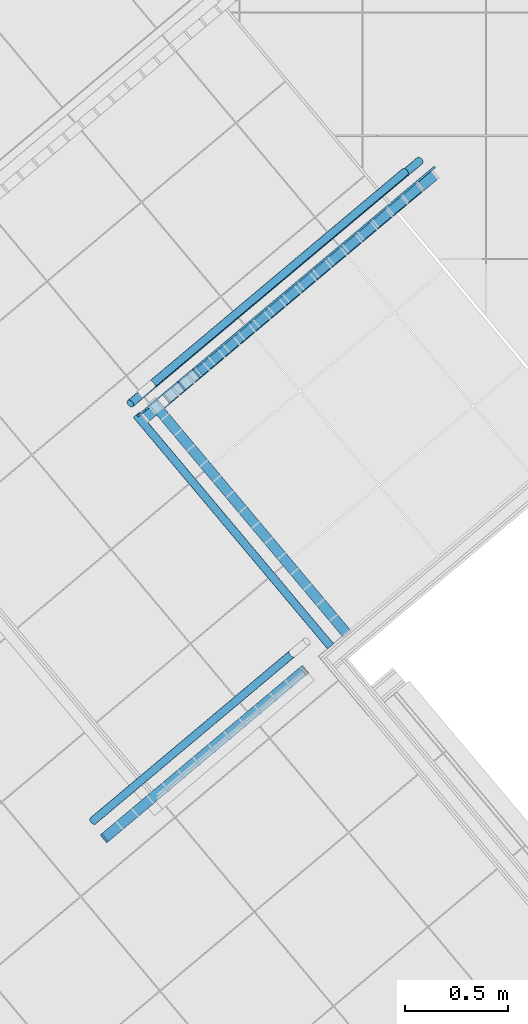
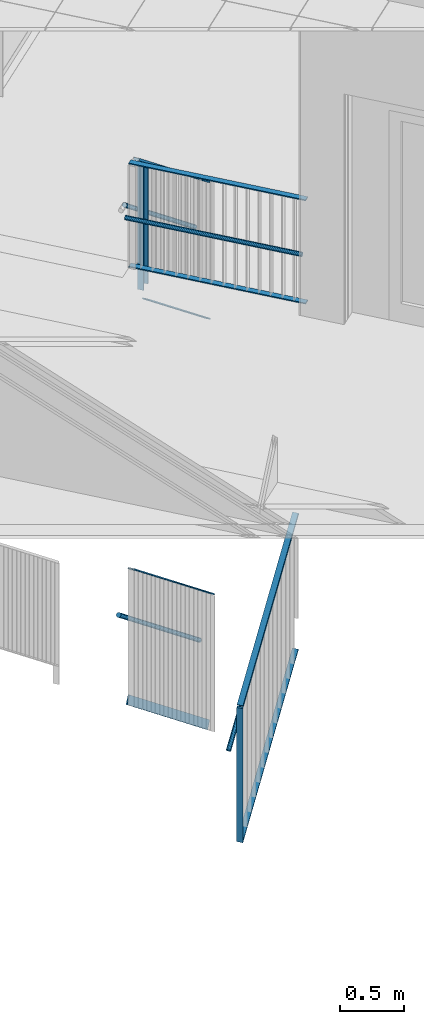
# One storey, part 32 of 321: 15 members, 4 elements without a shape of their own.
"""IFC2X3 building model written with IfcOpenShell, lengths in millimetres."""

from ifc_helpers import new_model, entity, si_unit, converted_unit, derived_unit, money_unit, direction, frame, origin_with_axes, place, context, subcontext, project, spatial, faceted_brep, material, type_object, element, aggregate, save


model = new_model("IFC2X3")

# Units and contexts
model_context = context("Model", 3, precision=0.01, world=origin_with_axes(), true_north=direction((0.0, 1.0)))
plan_context = context("Plan", 3, precision=0.01, world=origin_with_axes(), true_north=direction((0.0, 1.0)))
body_context = subcontext(model_context, "Body", "Model", "MODEL_VIEW")
ifc_project = project(units=[si_unit("LENGTHUNIT", "METRE", prefix="MILLI"), si_unit("AREAUNIT", "SQUARE_METRE"), si_unit("VOLUMEUNIT", "CUBIC_METRE"), converted_unit("PLANEANGLEUNIT", "DEGREE", entity("IfcPlaneAngleMeasure", 0.0174532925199), si_unit("PLANEANGLEUNIT", "RADIAN"), dimensions=[0, 0, 0, 0, 0, 0, 0]), money_unit("EUR"), converted_unit("TIMEUNIT", "Year", entity("IfcTimeMeasure", 31556926.0), si_unit("TIMEUNIT", "SECOND"), dimensions=[0, 0, 1, 0, 0, 0, 0]), si_unit("MASSUNIT", "GRAM", prefix="KILO"), si_unit("THERMODYNAMICTEMPERATUREUNIT", "DEGREE_CELSIUS"), si_unit("LUMINOUSINTENSITYUNIT", "LUMEN"), si_unit("ENERGYUNIT", "JOULE", prefix="MEGA"), derived_unit("THERMALCONDUCTANCEUNIT", [(si_unit("POWERUNIT", "WATT"), 1), (si_unit("LENGTHUNIT", "METRE"), -1), (si_unit("THERMODYNAMICTEMPERATUREUNIT", "KELVIN"), -1)]), derived_unit("SPECIFICHEATCAPACITYUNIT", [(si_unit("ENERGYUNIT", "JOULE"), 1), (si_unit("MASSUNIT", "GRAM", prefix="KILO"), -1), (si_unit("THERMODYNAMICTEMPERATUREUNIT", "KELVIN"), -1)]), derived_unit("MASSDENSITYUNIT", [(si_unit("MASSUNIT", "GRAM", prefix="KILO"), 1), (si_unit("VOLUMEUNIT", "CUBIC_METRE"), -1)])], contexts=[model_context, plan_context])

# Site, building, storey
site_placement = place(None, origin_with_axes())
site = spatial("IfcSite", under=ifc_project, at=site_placement, Name="Fortuinstraat Woensdrecht", CompositionType="ELEMENT")
building_placement = place(site_placement, origin_with_axes())
building = spatial("IfcBuilding", under=site, at=building_placement, Name="IKC Fortuna", CompositionType="ELEMENT")
storey_placement = place(building_placement, frame((0.0, 0.0, 4000.0), z_axis=(0.0, 0.0, 1.0), x_axis=(1.0, 0.0, 0.0)))
storey = spatial("IfcBuildingStorey", under=building, at=storey_placement, Name="01 eerste verdieping", CompositionType="ELEMENT", Elevation=4000.0)

# Railing, members
railing_type = type_object("IfcRailingType", Name="Railing Type", PredefinedType="NOTDEFINED")
railing_1_placement = place(storey_placement, frame((21162.521342, 3493.11146248, 1450.0), z_axis=(0.0, 0.0, 1.0), x_axis=(1.0, 0.0, 0.0)))
railing_1 = element("IfcRailing", 1, at=railing_1_placement, inside=storey, type_object=railing_type, Name="34_Reling_Trapleuning", PredefinedType="NOTDEFINED")
ifc_material_1 = material(Name="Metaal - RVS")
member_type_1 = type_object("IfcMemberType", Name="IfcMember", PredefinedType="USERDEFINED")
member_1_placement = place(railing_1_placement, frame((-1120.82043054, -2175.1546131, 505.27864045), z_axis=(0.0, 0.0, 1.0), x_axis=(1.0, 0.0, 0.0)))
member_1 = element("IfcMember", 2, at=member_1_placement, type_object=member_type_1, material=ifc_material_1, Name="_Reling - regel_Handregel-x", context=body_context, shape_type="Brep", body=[
    faceted_brep([(-457.699758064, 576.579902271, 24.72135955), (-457.932516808, 576.384594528, 28.1943231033), (488.108779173, -551.063708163, 28.1943231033), (488.341537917, -550.868400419, 24.72135955), (-457.932516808, 576.384594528, 21.2483959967), (-458.623720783, 575.804605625, 17.8809566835), (-459.752368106, 574.857558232, 14.72135955), (-461.284165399, 573.572227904, 11.8656073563), (-463.172569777, 571.987668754, 9.40047068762), (-465.360203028, 570.152026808, 7.40085147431), (-467.780595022, 568.12107712, 5.92750713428), (-470.360203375, 565.956529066, 5.02520448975), (-473.020647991, 563.724151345, 4.72135955), (-475.681092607, 561.491773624, 5.02520448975), (-478.260700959, 559.327225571, 5.92750713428), (-480.681092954, 557.296275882, 7.40085147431), (-482.868726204, 555.460633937, 9.40047068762), (-484.757130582, 553.876074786, 11.8656073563), (-486.288927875, 552.590744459, 14.72135955), (-487.417575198, 551.643697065, 17.8809566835), (-488.108779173, 551.063708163, 21.2483959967), (-488.341537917, 550.868400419, 24.72135955), (-488.108779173, 551.063708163, 28.1943231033), (-487.417575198, 551.643697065, 31.5617624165), (-486.288927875, 552.590744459, 34.72135955), (-484.757130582, 553.876074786, 37.5771117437), (-482.868726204, 555.460633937, 40.0422484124), (-480.681092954, 557.296275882, 42.0418676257), (-478.260700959, 559.327225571, 43.5152119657), (-475.681092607, 561.491773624, 44.4175146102), (-473.020647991, 563.724151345, 44.72135955), (-470.360203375, 565.956529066, 44.4175146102), (-467.780595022, 568.12107712, 43.5152119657), (-465.360203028, 570.152026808, 42.0418676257), (-463.172569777, 571.987668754, 40.0422484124), (-461.284165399, 573.572227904, 37.5771117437), (-459.752368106, 574.857558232, 34.72135955), (-458.623720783, 575.804605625, 31.5617624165), (487.417575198, -551.643697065, 31.5617624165), (486.288927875, -552.590744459, 34.72135955), (484.757130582, -553.876074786, 37.5771117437), (482.868726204, -555.460633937, 40.0422484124), (480.681092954, -557.296275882, 42.0418676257), (478.260700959, -559.327225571, 43.5152119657), (475.681092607, -561.491773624, 44.4175146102), (473.020647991, -563.724151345, 44.72135955), (470.360203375, -565.956529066, 44.4175146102), (467.780595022, -568.12107712, 43.5152119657), (465.360203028, -570.152026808, 42.0418676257), (463.172569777, -571.987668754, 40.0422484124), (461.284165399, -573.572227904, 37.5771117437), (459.752368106, -574.857558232, 34.72135955), (458.623720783, -575.804605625, 31.5617624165), (457.932516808, -576.384594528, 28.1943231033), (457.699758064, -576.579902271, 24.72135955), (457.932516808, -576.384594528, 21.2483959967), (458.623720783, -575.804605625, 17.8809566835), (459.752368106, -574.857558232, 14.72135955), (461.284165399, -573.572227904, 11.8656073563), (463.172569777, -571.987668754, 9.40047068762), (465.360203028, -570.152026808, 7.40085147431), (467.780595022, -568.12107712, 5.92750713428), (470.360203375, -565.956529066, 5.02520448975), (473.020647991, -563.724151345, 4.72135955), (475.681092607, -561.491773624, 5.02520448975), (478.260700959, -559.327225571, 5.92750713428), (480.681092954, -557.296275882, 7.40085147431), (482.868726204, -555.460633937, 9.40047068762), (484.757130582, -553.876074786, 11.8656073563), (486.288927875, -552.590744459, 14.72135955), (487.417575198, -551.643697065, 17.8809566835), (488.108779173, -551.063708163, 21.2483959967)], [[[0, 1, 2, 3]], [[0, 4, 5, 6, 7, 8, 9, 10, 11, 12, 13, 14, 15, 16, 17, 18, 19, 20, 21, 22, 23, 24, 25, 26, 27, 28, 29, 30, 31, 32, 33, 34, 35, 36, 37, 1]], [[1, 37, 38, 2]], [[3, 2, 38, 39, 40, 41, 42, 43, 44, 45, 46, 47, 48, 49, 50, 51, 52, 53, 54, 55, 56, 57, 58, 59, 60, 61, 62, 63, 64, 65, 66, 67, 68, 69, 70, 71]], [[4, 0, 3, 71]], [[5, 4, 71, 70]], [[6, 5, 70, 69]], [[7, 6, 69, 68]], [[8, 7, 68, 67]], [[9, 8, 67, 66]], [[10, 9, 66, 65]], [[11, 10, 65, 64]], [[12, 11, 64, 63]], [[13, 12, 63, 62]], [[14, 13, 62, 61]], [[15, 14, 61, 60]], [[16, 15, 60, 59]], [[17, 16, 59, 58]], [[18, 17, 58, 57]], [[19, 18, 57, 56]], [[20, 19, 56, 55]], [[21, 20, 55, 54]], [[22, 21, 54, 53]], [[23, 22, 53, 52]], [[24, 23, 52, 51]], [[25, 24, 51, 50]], [[26, 25, 50, 49]], [[27, 26, 49, 48]], [[28, 27, 48, 47]], [[29, 28, 47, 46]], [[30, 29, 46, 45]], [[31, 30, 45, 44]], [[32, 31, 44, 43]], [[33, 32, 43, 42]], [[34, 33, 42, 41]], [[35, 34, 41, 40]], [[36, 35, 40, 39]], [[37, 36, 39, 38]]]),
])
member_2_placement = place(railing_1_placement, frame((-1044.21598091, -2110.87585847, 973.074175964), z_axis=(0.0, 0.0, 1.0), x_axis=(1.0, 0.0, 0.0)))
member_2 = element("IfcMember", 3, at=member_2_placement, type_object=member_type_1, material=ifc_material_1, Name="_Reling - regel_", context=body_context, shape_type="Brep", body=[
    faceted_brep([(-492.171760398, 547.654462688, 26.9258240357), (-492.171760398, 547.654462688, 16.9258240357), (453.869535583, -579.793840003, 16.9258240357), (453.869535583, -579.793840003, 26.9258240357), (-453.869535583, 579.793840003, 26.9258240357), (-453.869535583, 579.793840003, 16.9258240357), (492.171760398, -547.654462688, 16.9258240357), (492.171760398, -547.654462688, 26.9258240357)], [[[0, 1, 2, 3]], [[0, 4, 5, 1]], [[1, 5, 6, 2]], [[3, 2, 6, 7]], [[4, 0, 3, 7]], [[5, 4, 7, 6]]]),
])
member_3_placement = place(railing_1_placement, frame((-1044.21598091, -2110.87585847, -15.495097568), z_axis=(0.0, 0.0, 1.0), x_axis=(1.0, 0.0, 0.0)))
member_3 = element("IfcMember", 4, at=member_3_placement, type_object=member_type_1, material=ifc_material_1, Name="_Reling - regel_Regel-x", context=body_context, shape_type="Brep", body=[
    faceted_brep([(-492.171760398, 547.654462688, 30.495097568), (-492.171760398, 547.654462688, 20.495097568), (453.869535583, -579.793840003, 20.495097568), (453.869535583, -579.793840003, 30.495097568), (-453.869535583, 579.793840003, 30.495097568), (-453.869535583, 579.793840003, 20.495097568), (492.171760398, -547.654462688, 20.495097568), (492.171760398, -547.654462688, 30.495097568)], [[[0, 1, 2, 3]], [[0, 4, 5, 1]], [[1, 5, 6, 2]], [[3, 2, 6, 7]], [[4, 0, 3, 7]], [[5, 4, 7, 6]]]),
])
aggregate(railing_1, [member_1, member_2, member_3])

railing_2_placement = place(storey_placement, frame((21000.2167355, 3077.07880334, -3818.75), z_axis=(0.0, 0.0, 1.0), x_axis=(1.0, 0.0, 0.0)))
railing_2 = element("IfcRailing", 5, at=railing_2_placement, inside=storey, type_object=railing_type, Name="34_Reling_Trapleuning", PredefinedType="NOTDEFINED")
ifc_material_2 = material(Name="Hout AFW")
member_4_placement = place(railing_2_placement, frame((-746.53195097, -541.5632109, 505.27864045), z_axis=(0.0, 0.0, 1.0), x_axis=(1.0, 0.0, 0.0)))
member_4 = element("IfcMember", 6, at=member_4_placement, type_object=member_type_1, material=ifc_material_2, Name="_Reling - regel_Handregel-x", context=body_context, shape_type="Brep", body=[
    faceted_brep([(708.123613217, 568.078116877, 29.0127838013), (709.574992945, 569.692610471, 31.7405493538), (-699.926519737, -613.019588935, 1481.71970478), (-701.377899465, -614.634082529, 1478.99193923), (706.281617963, 566.929140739, 26.2850182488), (704.104975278, 566.280593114, 23.6401344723), (701.659821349, 566.152179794, 21.1584959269), (699.020450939, 566.547802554, 18.9155059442), (696.267059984, 567.455440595, 16.9793166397), (693.483308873, 568.847515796, 15.4087581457), (690.753780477, 570.681730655, 14.2515510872), (688.161410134, 572.902353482, 13.5428566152), (685.784965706, 575.441911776, 13.3042080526), (683.696654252, 578.223242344, 13.5428566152), (681.959928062, 581.161835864, 14.2515510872), (680.62755668, 584.168404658, 15.4087581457), (679.740023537, 587.151595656, 16.9793166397), (679.324295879, 590.020766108, 18.9155059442), (679.39300538, 592.688737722, 21.1584959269), (679.944064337, 595.07444553, 23.6401344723), (680.960729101, 597.105401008, 26.2850182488), (682.41210883, 598.719894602, 29.0127838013), (684.254104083, 599.868870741, 31.7405493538), (686.430746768, 600.517418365, 34.3854331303), (688.875900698, 600.645831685, 36.8670716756), (691.515271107, 600.250208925, 39.1100616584), (694.268662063, 599.342570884, 41.0462509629), (697.052413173, 597.950495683, 42.6168094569), (699.781941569, 596.116280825, 43.7740165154), (702.374311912, 593.895657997, 44.4827109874), (704.750756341, 591.356099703, 44.72135955), (706.839067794, 588.574769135, 44.4827109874), (708.575793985, 585.636175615, 43.7740165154), (709.908165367, 582.629606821, 42.6168094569), (710.795698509, 579.646415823, 41.0462509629), (711.211426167, 576.777245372, 39.1100616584), (711.142716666, 574.109273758, 36.8670716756), (710.59165771, 571.723565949, 34.3854331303), (-698.909854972, -610.988633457, 1484.36458856), (-698.358796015, -608.602925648, 1486.84622711), (-698.290086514, -605.934954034, 1489.08921709), (-698.705814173, -603.065783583, 1491.02540639), (-699.593347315, -600.082592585, 1492.59596489), (-700.925718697, -597.076023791, 1493.75317195), (-702.662444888, -594.137430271, 1494.46186642), (-704.750756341, -591.356099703, 1494.70051498), (-707.12720077, -588.816541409, 1494.46186642), (-709.719571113, -586.595918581, 1493.75317195), (-712.449099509, -584.761703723, 1492.59596489), (-715.232850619, -583.369628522, 1491.02540639), (-717.986241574, -582.461990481, 1489.08921709), (-720.625611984, -582.066367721, 1486.84622711), (-723.070765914, -582.194781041, 1484.36458856), (-725.247408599, -582.843328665, 1481.71970478), (-727.089403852, -583.992304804, 1478.99193923), (-728.54078358, -585.606798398, 1476.26417368), (-729.557448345, -587.637753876, 1473.6192899), (-730.108507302, -590.023461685, 1471.13765136), (-730.177216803, -592.691433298, 1468.89466138), (-729.761489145, -595.56060375, 1466.95847207), (-728.873956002, -598.543794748, 1465.38791358), (-727.54158462, -601.550363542, 1464.23070652), (-725.804858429, -604.488957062, 1463.52201205), (-723.716546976, -607.27028763, 1463.28336348), (-721.340102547, -609.809845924, 1463.52201205), (-718.747732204, -612.030468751, 1464.23070652), (-716.018203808, -613.86468361, 1465.38791358), (-713.234452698, -615.256758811, 1466.95847207), (-710.481061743, -616.164396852, 1468.89466138), (-707.841691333, -616.560019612, 1471.13765136), (-705.396537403, -616.431606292, 1473.6192899), (-703.219894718, -615.783058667, 1476.26417368)], [[[0, 1, 2, 3]], [[0, 4, 5, 6, 7, 8, 9, 10, 11, 12, 13, 14, 15, 16, 17, 18, 19, 20, 21, 22, 23, 24, 25, 26, 27, 28, 29, 30, 31, 32, 33, 34, 35, 36, 37, 1]], [[1, 37, 38, 2]], [[3, 2, 38, 39, 40, 41, 42, 43, 44, 45, 46, 47, 48, 49, 50, 51, 52, 53, 54, 55, 56, 57, 58, 59, 60, 61, 62, 63, 64, 65, 66, 67, 68, 69, 70, 71]], [[4, 0, 3, 71]], [[5, 4, 71, 70]], [[6, 5, 70, 69]], [[7, 6, 69, 68]], [[8, 7, 68, 67]], [[9, 8, 67, 66]], [[10, 9, 66, 65]], [[11, 10, 65, 64]], [[12, 11, 64, 63]], [[13, 12, 63, 62]], [[14, 13, 62, 61]], [[15, 14, 61, 60]], [[16, 15, 60, 59]], [[17, 16, 59, 58]], [[18, 17, 58, 57]], [[19, 18, 57, 56]], [[20, 19, 56, 55]], [[21, 20, 55, 54]], [[22, 21, 54, 53]], [[23, 22, 53, 52]], [[24, 23, 52, 51]], [[25, 24, 51, 50]], [[26, 25, 50, 49]], [[27, 26, 49, 48]], [[28, 27, 48, 47]], [[29, 28, 47, 46]], [[30, 29, 46, 45]], [[31, 30, 45, 44]], [[32, 31, 44, 43]], [[33, 32, 43, 42]], [[34, 33, 42, 41]], [[35, 34, 41, 40]], [[36, 35, 40, 39]], [[37, 36, 39, 38]]]),
])
member_5_placement = place(railing_2_placement, frame((-682.253190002, -618.167655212, 973.074175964), z_axis=(0.0, 0.0, 1.0), x_axis=(1.0, 0.0, 0.0)))
member_5 = element("IfcMember", 7, at=member_5_placement, type_object=member_type_1, material=ifc_material_1, Name="_Reling - regel_", context=body_context, shape_type="Brep", body=[
    faceted_brep([(688.681066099, 610.507210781, 26.9258240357), (683.93961844, 606.5286638, 19.0715361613), (-725.561894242, -576.183535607, 1469.05069159), (-720.820446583, -572.204988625, 1476.90497947), (720.820446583, 572.204988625, 26.9258240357), (716.078998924, 568.226441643, 19.0715361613), (-693.422513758, -614.485757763, 1469.05069159), (-688.681066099, -610.507210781, 1476.90497947)], [[[0, 1, 2, 3]], [[0, 4, 5, 1]], [[1, 5, 6, 2]], [[3, 2, 6, 7]], [[4, 0, 3, 7]], [[5, 4, 7, 6]]]),
])
member_6_placement = place(railing_2_placement, frame((-701.536818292, -595.186321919, -305.311288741), z_axis=(0.0, 0.0, 1.0), x_axis=(1.0, 0.0, 0.0)))
member_6 = element("IfcMember", 8, at=member_6_placement, type_object=member_type_1, material=ifc_material_1, Name="_Reling - regel_Regel-x", context=body_context, shape_type="Brep", body=[
    faceted_brep([(726.930485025, 603.440065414, 71.7284402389), (720.502608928, 611.100509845, 71.7284402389), (-688.998903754, -571.611689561, 1521.70759567), (-682.571027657, -579.272133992, 1521.70759567), (688.998903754, 571.611689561, 8.89413724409), (682.571027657, 579.272133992, 8.89413724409), (-726.930485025, -603.440065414, 1458.87329268), (-720.502608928, -611.100509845, 1458.87329268)], [[[0, 1, 2, 3]], [[0, 4, 5, 1]], [[1, 5, 6, 2]], [[3, 2, 6, 7]], [[4, 0, 3, 7]], [[5, 4, 7, 6]]]),
])
aggregate(railing_2, [member_4, member_5, member_6])

railing_3_placement = place(storey_placement, frame((19473.0503372, -83.5297075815, -2367.85714286), z_axis=(0.0, 0.0, 1.0), x_axis=(1.0, 0.0, 0.0)))
railing_3 = element("IfcRailing", 9, at=railing_3_placement, inside=storey, type_object=railing_type, Name="34_Reling_Trapleuning", PredefinedType="NOTDEFINED")
member_7_placement = place(railing_3_placement, frame((360.611627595, 387.44055752, 505.27864045), z_axis=(0.0, 0.0, 1.0), x_axis=(1.0, 0.0, 0.0)))
member_7 = element("IfcMember", 10, at=member_7_placement, type_object=member_type_1, material=ifc_material_1, Name="_Reling - regel_Handregel-x", context=body_context, shape_type="Brep", body=[
    faceted_brep([(-488.87583138, -384.107384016, 29.0424179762), (-490.332201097, -385.726064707, 31.7650376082), (480.731220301, 429.092894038, 1035.63610443), (482.187590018, 430.711574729, 1032.9134848), (-487.028846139, -382.954220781, 26.3197983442), (-484.847365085, -382.301613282, 23.6799041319), (-482.397671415, -382.169390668, 21.2029471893), (-479.754197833, -382.561570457, 18.9641885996), (-476.997264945, -383.466236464, 17.0316519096), (-474.210640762, -384.855900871, 15.4640562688), (-471.478995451, -386.688339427, 14.3090322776), (-468.88532867, -388.907874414, 13.6016747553), (-466.508447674, -391.447066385, 13.3634764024), (-464.420572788, -394.228763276, 13.6016747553), (-462.685143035, -397.168444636, 14.3090322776), (-461.354888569, -400.176789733, 15.4640562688), (-460.470228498, -403.162391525, 17.0316519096), (-460.058042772, -406.034534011, 18.9641885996), (-460.130855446, -408.705948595, 21.2029471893), (-460.686454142, -411.095465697, 23.6799041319), (-461.707957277, -413.13048105, 26.3197983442), (-463.164326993, -414.749161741, 29.0424179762), (-465.011312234, -415.902324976, 31.7650376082), (-467.192793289, -416.554932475, 34.4049318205), (-469.642486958, -416.687155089, 36.8818887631), (-472.285960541, -416.2949753, 39.1206473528), (-475.042893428, -415.390309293, 41.0531840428), (-477.829517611, -414.000644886, 42.6207796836), (-480.561162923, -412.16820633, 43.7758036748), (-483.154829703, -409.948671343, 44.4831611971), (-485.531710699, -407.409479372, 44.72135955), (-487.619585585, -404.627782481, 44.4831611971), (-489.355015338, -401.688101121, 43.7758036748), (-490.685269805, -398.679756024, 42.6207796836), (-491.569929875, -395.694154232, 41.0531840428), (-491.982115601, -392.822011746, 39.1206473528), (-491.909302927, -390.150597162, 36.8818887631), (-491.353704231, -387.76108006, 34.4049318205), (479.709717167, 427.057878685, 1038.27599865), (479.154118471, 424.668361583, 1040.75295559), (479.081305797, 421.996946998, 1042.99171418), (479.493491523, 419.124804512, 1044.92425087), (480.378151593, 416.139202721, 1046.49184651), (481.70840606, 413.130857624, 1047.6468705), (483.443835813, 410.191176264, 1048.35422802), (485.531710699, 407.409479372, 1048.59242638), (487.908591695, 404.870287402, 1048.35422802), (490.502258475, 402.650752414, 1047.6468705), (493.233903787, 400.818313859, 1046.49184651), (496.02052797, 399.428649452, 1044.92425087), (498.777460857, 398.523983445, 1042.99171418), (501.42093444, 398.131803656, 1040.75295559), (503.870628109, 398.26402627, 1038.27599865), (506.052109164, 398.916633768, 1035.63610443), (507.899094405, 400.069797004, 1032.9134848), (509.355464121, 401.688477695, 1030.19086517), (510.376967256, 403.723493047, 1027.55097096), (510.932565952, 406.11301015, 1025.07401401), (511.005378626, 408.784424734, 1022.83525542), (510.5931929, 411.65656722, 1020.90271873), (509.708532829, 414.642169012, 1019.33512309), (508.378278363, 417.650514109, 1018.1800991), (506.64284861, 420.590195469, 1017.47274158), (504.554973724, 423.37189236, 1017.23454323), (502.178092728, 425.911084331, 1017.47274158), (499.584425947, 428.130619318, 1018.1800991), (496.852780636, 429.963057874, 1019.33512309), (494.066156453, 431.352722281, 1020.90271873), (491.309223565, 432.257388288, 1022.83525542), (488.665749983, 432.649568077, 1025.07401401), (486.216056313, 432.517345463, 1027.55097096), (484.034575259, 431.864737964, 1030.19086517)], [[[0, 1, 2, 3]], [[0, 4, 5, 6, 7, 8, 9, 10, 11, 12, 13, 14, 15, 16, 17, 18, 19, 20, 21, 22, 23, 24, 25, 26, 27, 28, 29, 30, 31, 32, 33, 34, 35, 36, 37, 1]], [[1, 37, 38, 2]], [[3, 2, 38, 39, 40, 41, 42, 43, 44, 45, 46, 47, 48, 49, 50, 51, 52, 53, 54, 55, 56, 57, 58, 59, 60, 61, 62, 63, 64, 65, 66, 67, 68, 69, 70, 71]], [[4, 0, 3, 71]], [[5, 4, 71, 70]], [[6, 5, 70, 69]], [[7, 6, 69, 68]], [[8, 7, 68, 67]], [[9, 8, 67, 66]], [[10, 9, 66, 65]], [[11, 10, 65, 64]], [[12, 11, 64, 63]], [[13, 12, 63, 62]], [[14, 13, 62, 61]], [[15, 14, 61, 60]], [[16, 15, 60, 59]], [[17, 16, 59, 58]], [[18, 17, 58, 57]], [[19, 18, 57, 56]], [[20, 19, 56, 55]], [[21, 20, 55, 54]], [[22, 21, 54, 53]], [[23, 22, 53, 52]], [[24, 23, 52, 51]], [[25, 24, 51, 50]], [[26, 25, 50, 49]], [[27, 26, 49, 48]], [[28, 27, 48, 47]], [[29, 28, 47, 46]], [[30, 29, 46, 45]], [[31, 30, 45, 44]], [[32, 31, 44, 43]], [[33, 32, 43, 42]], [[34, 33, 42, 41]], [[35, 34, 41, 40]], [[36, 35, 40, 39]], [[37, 36, 39, 38]]]),
])
member_8_placement = place(railing_3_placement, frame((424.890388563, 310.836113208, 967.984378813), z_axis=(0.0, 0.0, 1.0), x_axis=(1.0, 0.0, 0.0)))
member_8 = element("IfcMember", 11, at=member_8_placement, type_object=member_type_1, material=ifc_material_1, Name="_Reling - regel_", context=body_context, shape_type="Brep", body=[
    faceted_brep([(-469.462020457, -426.56059045, 32.0156211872), (-459.950388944, -418.579383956, 16.3366796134), (511.113032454, 396.239574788, 1020.20774644), (501.601400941, 388.258368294, 1035.88668801), (-501.601400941, -388.258368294, 32.0156211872), (-492.089769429, -380.277161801, 16.3366796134), (478.973651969, 434.541796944, 1020.20774644), (469.462020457, 426.56059045, 1035.88668801)], [[[0, 1, 2, 3]], [[0, 4, 5, 1]], [[1, 5, 6, 2]], [[3, 2, 6, 7]], [[4, 0, 3, 7]], [[5, 4, 7, 6]]]),
])
member_9_placement = place(railing_3_placement, frame((424.890388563, 310.836113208, -325.495097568), z_axis=(0.0, 0.0, 1.0), x_axis=(1.0, 0.0, 0.0)))
member_9 = element("IfcMember", 12, at=member_9_placement, type_object=member_type_1, material=ifc_material_1, Name="_Reling - regel_Regel-x", context=body_context, shape_type="Brep", body=[
    faceted_brep([(-471.839928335, -428.555892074, 29.4148329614), (-467.084112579, -424.565288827, 21.5753621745), (503.979308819, 390.253669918, 1025.446429), (499.223493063, 386.263066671, 1033.28589979), (-503.979308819, -390.253669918, 29.4148329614), (-499.223493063, -386.263066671, 21.5753621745), (471.839928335, 428.555892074, 1025.446429), (467.084112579, 424.565288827, 1033.28589979)], [[[0, 1, 2, 3]], [[0, 4, 5, 1]], [[1, 5, 6, 2]], [[3, 2, 6, 7]], [[4, 0, 3, 7]], [[5, 4, 7, 6]]]),
])

railing_4_placement = place(storey_placement, frame((21162.521342, 3493.11146248, 181.25), z_axis=(0.0, 0.0, 1.0), x_axis=(1.0, 0.0, 0.0)))
railing_4 = element("IfcRailing", 13, at=railing_4_placement, inside=storey, type_object=railing_type, Name="34_Reling_Trapleuning", PredefinedType="NOTDEFINED")
member_10_placement = place(railing_4_placement, frame((-892.559140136, -938.13358559, 505.27864045), z_axis=(0.0, 0.0, 1.0), x_axis=(1.0, 0.0, 0.0)))
member_10 = element("IfcMember", 14, at=member_10_placement, type_object=member_type_1, material=ifc_material_1, Name="_Reling - regel_Handregel-x", context=body_context, shape_type="Brep", body=[
    faceted_brep([(620.038633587, 494.166042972, 29.0127838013), (621.490013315, 495.780536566, 31.7405493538), (-608.394310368, -536.214945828, 1296.9443231), (-609.121295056, -537.22159981, 1293.47135955), (618.196638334, 493.017066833, 26.2850182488), (616.019995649, 492.368519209, 23.6401344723), (613.574841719, 492.240105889, 21.1584959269), (610.935471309, 492.635728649, 18.9155059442), (608.182080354, 493.54336669, 16.9793166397), (605.398329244, 494.93544189, 15.4087581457), (602.668800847, 496.769656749, 14.2515510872), (600.076430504, 498.990279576, 13.5428566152), (597.699986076, 501.529837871, 13.3042080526), (595.611674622, 504.311168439, 13.5428566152), (593.874948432, 507.249761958, 14.2515510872), (592.54257705, 510.256330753, 15.4087581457), (591.655043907, 513.23952175, 16.9793166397), (591.239316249, 516.108692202, 18.9155059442), (591.30802575, 518.776663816, 21.1584959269), (591.859084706, 521.162371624, 23.6401344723), (592.875749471, 523.193327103, 26.2850182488), (594.327129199, 524.807820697, 29.0127838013), (596.169124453, 525.956796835, 31.7405493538), (598.345767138, 526.60534446, 34.3854331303), (600.790921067, 526.733757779, 36.8670716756), (603.430291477, 526.33813502, 39.1100616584), (606.183682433, 525.430496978, 41.0462509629), (608.967433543, 524.038421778, 42.6168094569), (611.696961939, 522.204206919, 43.7740165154), (614.289332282, 519.983584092, 44.4827109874), (616.665776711, 517.444025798, 44.72135955), (618.754088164, 514.66269523, 44.4827109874), (620.490814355, 511.72410171, 43.7740165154), (621.823185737, 508.717532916, 42.6168094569), (622.710718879, 505.734341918, 41.0462509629), (623.126446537, 502.865171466, 39.1100616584), (623.057737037, 500.197199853, 36.8670716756), (622.50667808, 497.811492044, 34.3854331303), (-608.080030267, -534.773361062, 1300.31176242), (-608.188003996, -532.940647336, 1303.47135955), (-608.714950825, -530.77249073, 1306.32711174), (-609.644859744, -528.334769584, 1308.79224841), (-610.94947594, -525.701552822, 1310.79186763), (-612.589159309, -522.952849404, 1312.26521197), (-614.514088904, -520.17217729, 1313.16751461), (-616.665776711, -517.444025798, 1313.47135955), (-618.978844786, -514.851288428, 1313.16751461), (-621.383011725, -512.472744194, 1312.26521197), (-623.805228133, -510.38066396, 1310.79186763), (-626.171896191, -508.638614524, 1308.79224841), (-628.411105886, -507.299527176, 1306.32711174), (-630.454819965, -506.404089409, 1303.47135955), (-632.24094121, -505.979508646, 1300.31176242), (-633.71519923, -506.038685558, 1296.9443231), (-634.832799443, -506.579822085, 1293.47135955), (-635.559784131, -507.586476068, 1289.998396), (-635.874064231, -509.028060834, 1286.63095668), (-635.766090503, -510.860774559, 1283.47135955), (-635.239143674, -513.028931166, 1280.61560736), (-634.309234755, -515.466652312, 1278.15047069), (-633.004618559, -518.099869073, 1276.15085147), (-631.364935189, -520.848572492, 1274.67750713), (-629.440005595, -523.629244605, 1273.77520449), (-627.288317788, -526.357396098, 1273.47135955), (-624.975249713, -528.950133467, 1273.77520449), (-622.571082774, -531.328677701, 1274.67750713), (-620.148866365, -533.420757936, 1276.15085147), (-617.782198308, -535.162807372, 1278.15047069), (-615.542988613, -536.501894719, 1280.61560736), (-613.499274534, -537.397332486, 1283.47135955), (-611.713153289, -537.821913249, 1286.63095668), (-610.238895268, -537.762736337, 1289.998396)], [[[0, 1, 2, 3]], [[0, 4, 5, 6, 7, 8, 9, 10, 11, 12, 13, 14, 15, 16, 17, 18, 19, 20, 21, 22, 23, 24, 25, 26, 27, 28, 29, 30, 31, 32, 33, 34, 35, 36, 37, 1]], [[1, 37, 38, 2]], [[3, 2, 38, 39, 40, 41, 42, 43, 44, 45, 46, 47, 48, 49, 50, 51, 52, 53, 54, 55, 56, 57, 58, 59, 60, 61, 62, 63, 64, 65, 66, 67, 68, 69, 70, 71]], [[4, 0, 3, 71]], [[5, 4, 71, 70]], [[6, 5, 70, 69]], [[7, 6, 69, 68]], [[8, 7, 68, 67]], [[9, 8, 67, 66]], [[10, 9, 66, 65]], [[11, 10, 65, 64]], [[12, 11, 64, 63]], [[13, 12, 63, 62]], [[14, 13, 62, 61]], [[15, 14, 61, 60]], [[16, 15, 60, 59]], [[17, 16, 59, 58]], [[18, 17, 58, 57]], [[19, 18, 57, 56]], [[20, 19, 56, 55]], [[21, 20, 55, 54]], [[22, 21, 54, 53]], [[23, 22, 53, 52]], [[24, 23, 52, 51]], [[25, 24, 51, 50]], [[26, 25, 50, 49]], [[27, 26, 49, 48]], [[28, 27, 48, 47]], [[29, 28, 47, 46]], [[30, 29, 46, 45]], [[31, 30, 45, 44]], [[32, 31, 44, 43]], [[33, 32, 43, 42]], [[34, 33, 42, 41]], [[35, 34, 41, 40]], [[36, 35, 40, 39]], [[37, 36, 39, 38]]]),
])
member_11_placement = place(railing_4_placement, frame((-828.280379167, -1014.7380299, 967.984378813), z_axis=(0.0, 0.0, 1.0), x_axis=(1.0, 0.0, 0.0)))
member_11 = element("IfcMember", 15, at=member_11_placement, type_object=member_type_1, material=ifc_material_1, Name="_Reling - regel_", context=body_context, shape_type="Brep", body=[
    faceted_brep([(600.596086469, 536.595136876, 32.0156211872), (591.113191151, 528.638042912, 16.3070454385), (-638.046737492, -502.74959987, 1280.76562119), (-632.735466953, -498.29291472, 1300.76562119), (632.735466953, 498.29291472, 32.0156211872), (623.252571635, 490.335820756, 16.3070454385), (-605.907357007, -541.051822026, 1280.76562119), (-600.596086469, -536.595136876, 1300.76562119)], [[[0, 1, 2, 3]], [[0, 4, 5, 1]], [[1, 5, 6, 2]], [[3, 2, 6, 7]], [[4, 0, 3, 7]], [[5, 4, 7, 6]]]),
])
member_12_placement = place(railing_4_placement, frame((-751.675934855, -950.459268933, -345.495097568), z_axis=(0.0, 0.0, 1.0), x_axis=(1.0, 0.0, 0.0)))
member_12 = element("IfcMember", 16, at=member_12_placement, type_object=member_type_1, material=ifc_material_1, Name="_Reling - regel_Regel-x", context=body_context, shape_type="Brep", body=[
    faceted_brep([(526.362365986, 474.305649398, 29.4222415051), (521.620918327, 470.327102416, 21.5679536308), (-559.961244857, -437.228091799, 1134.2106698), (-552.300800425, -430.800215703, 1139.06213403), (558.50174647, 436.003427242, 29.4222415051), (553.760298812, 432.02488026, 21.5679536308), (-527.821864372, -475.530313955, 1134.2106698), (-520.161419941, -469.102437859, 1139.06213403)], [[[0, 1, 2, 3]], [[0, 4, 5, 1]], [[1, 5, 6, 2]], [[3, 2, 6, 7]], [[4, 0, 3, 7]], [[5, 4, 7, 6]]]),
])

# Member
member_type_2 = type_object("IfcMemberType", Name="IfcMember", PredefinedType="POST")
member_13_placement = place(railing_3_placement, frame((-60.6413221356, -96.5733661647, -300.0), z_axis=(0.0, 0.0, 1.0), x_axis=(1.0, 0.0, 0.0)))
member_13 = element("IfcMember", 17, at=member_13_placement, type_object=member_type_2, material=ifc_material_1, Name="_Reling - baluster_", ObjectType="POST", context=body_context, shape_type="Brep", body=[
    faceted_brep([(19.8999124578, -15.9371730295, 3.95962732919), (-12.2394680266, 22.3650491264, 3.95962732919), (-12.2394680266, 22.3650491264, 1283.95962733), (19.8999124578, -15.9371730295, 1283.95962733), (12.2394680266, -22.3650491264, -3.95962732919), (-19.8999124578, 15.9371730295, -3.95962732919), (-19.8999124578, 15.9371730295, 1276.04037267), (12.2394680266, -22.3650491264, 1276.04037267)], [[[0, 1, 2, 3]], [[0, 4, 5, 1]], [[1, 5, 6, 2]], [[3, 2, 6, 7]], [[4, 0, 3, 7]], [[5, 4, 7, 6]]]),
])

aggregate(railing_3, [member_13, member_7, member_8, member_9])

member_type_3 = type_object("IfcMemberType", Name="IfcMember", PredefinedType="MEMBER")
member_14_placement = place(railing_4_placement, frame((-1299.84832606, -1410.43052022, 948.75), z_axis=(0.0, 0.0, 1.0), x_axis=(1.0, 0.0, 0.0)))
member_14 = element("IfcMember", 18, at=member_14_placement, type_object=member_type_3, material=ifc_material_1, Name="_Onderdeel_Spijlen-x", ObjectType="MEMBER", context=body_context, shape_type="Brep", body=[
    faceted_brep([(-19.8999124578, 15.9371730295, 0.0), (12.2394680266, -22.3650491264, 0.0), (12.2394680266, -22.3650491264, 1152.17551151), (-19.8999124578, 15.9371730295, 1152.17551151), (-12.2394680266, 22.3650491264, 0.0), (19.8999124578, -15.9371730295, 0.0), (19.8999124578, -15.9371730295, 1144.29507673), (-12.2394680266, 22.3650491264, 1144.29507673)], [[[0, 1, 2, 3]], [[0, 4, 5, 1]], [[1, 5, 6, 2]], [[3, 2, 6, 7]], [[4, 0, 3, 7]], [[5, 4, 7, 6]]]),
])

member_15_placement = place(railing_4_placement, frame((-1372.39724097, -1471.30628796, 948.75), z_axis=(0.0, 0.0, 1.0), x_axis=(1.0, 0.0, 0.0)))
member_15 = element("IfcMember", 19, at=member_15_placement, type_object=member_type_3, material=ifc_material_1, Name="_Onderdeel_Spijlen-x", ObjectType="MEMBER", context=body_context, shape_type="Brep", body=[
    faceted_brep([(-19.8999124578, 15.9371730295, 0.0), (12.2394680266, -22.3650491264, 0.0), (12.2394680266, -22.3650491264, 1226.80786445), (-19.8999124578, 15.9371730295, 1226.80786445), (-12.2394680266, 22.3650491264, 0.0), (19.8999124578, -15.9371730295, 0.0), (19.8999124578, -15.9371730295, 1218.92742967), (-12.2394680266, 22.3650491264, 1218.92742967)], [[[0, 1, 2, 3]], [[0, 4, 5, 1]], [[1, 5, 6, 2]], [[3, 2, 6, 7]], [[4, 0, 3, 7]], [[5, 4, 7, 6]]]),
])

aggregate(railing_4, [member_10, member_11, member_12, member_14, member_15])

save(model, "model.ifc")
